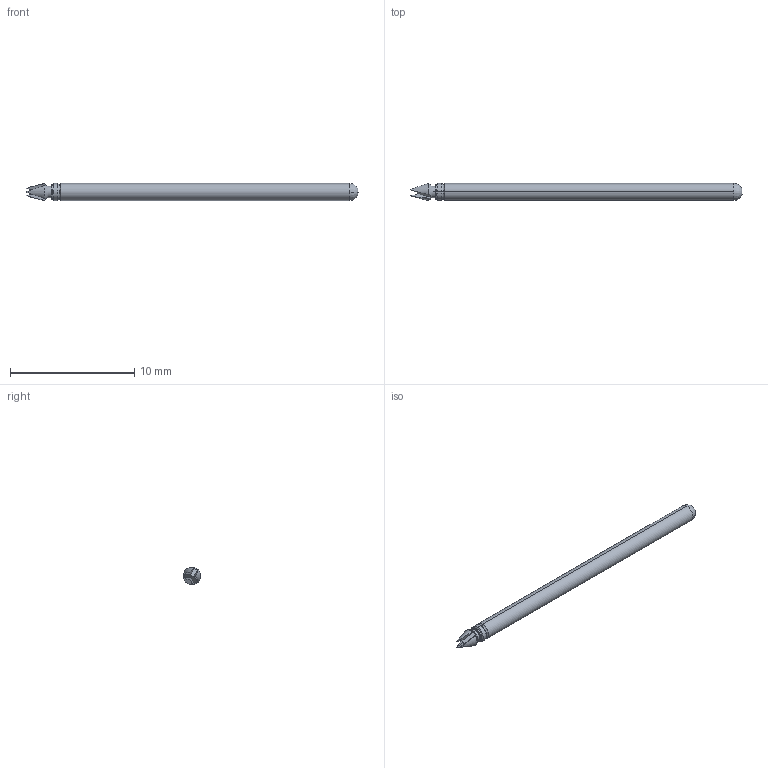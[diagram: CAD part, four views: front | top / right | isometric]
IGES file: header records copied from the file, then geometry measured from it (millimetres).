
Start section: SolidWorks IGES file using analytic representation for surfaces
Global section: file name: Z:\probe solid model mockups\Solidworks models\POGO-25 IGS files\POGO-25UN Full.IGS; native system: SolidWorks 2006 by SolidWorks Corporation; preprocessor: SolidWorks 2006 by SolidWorks Corporation; author: tsakatani; date: 071214.093600; units: inch
Bounding box: 26.67 x 1.38 x 1.4 mm (x, y, z)
Surface area: 114.8 mm2 (no closed solid volume)
Topology: 0 solids, 0 shells, 37 faces, 236 edges, 236 vertices
Faces by surface type: revolution 22, bspline 15
